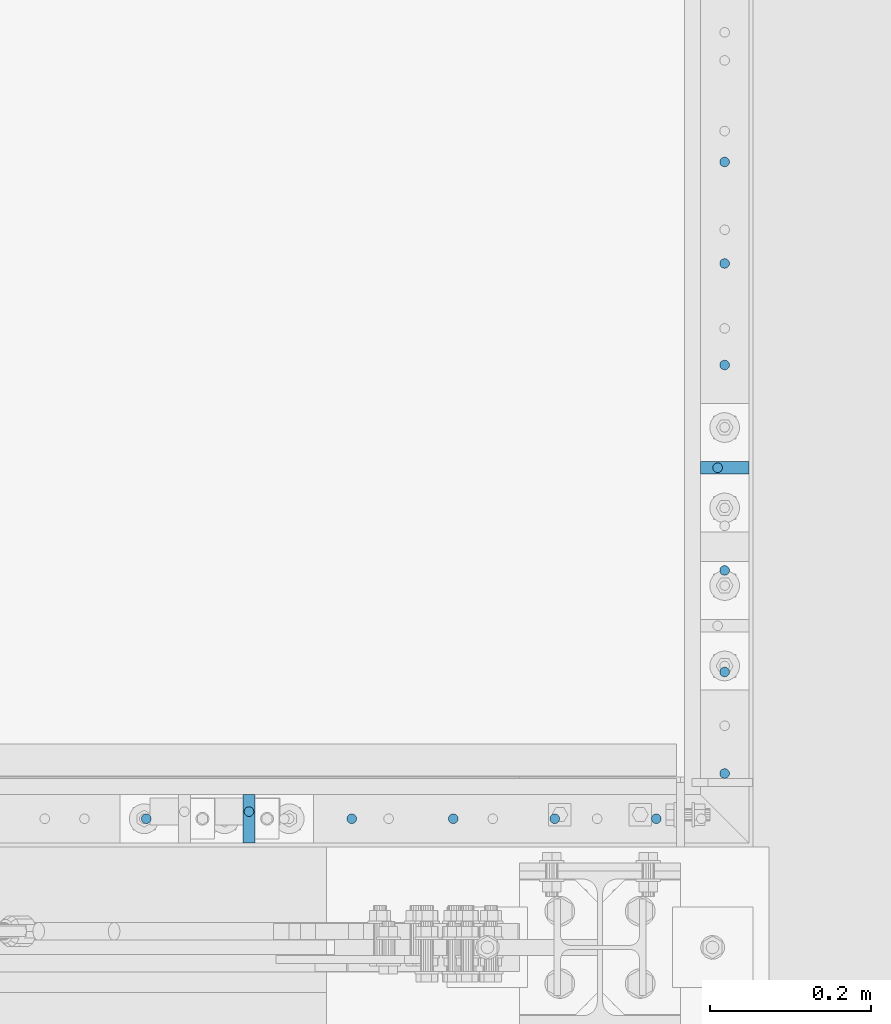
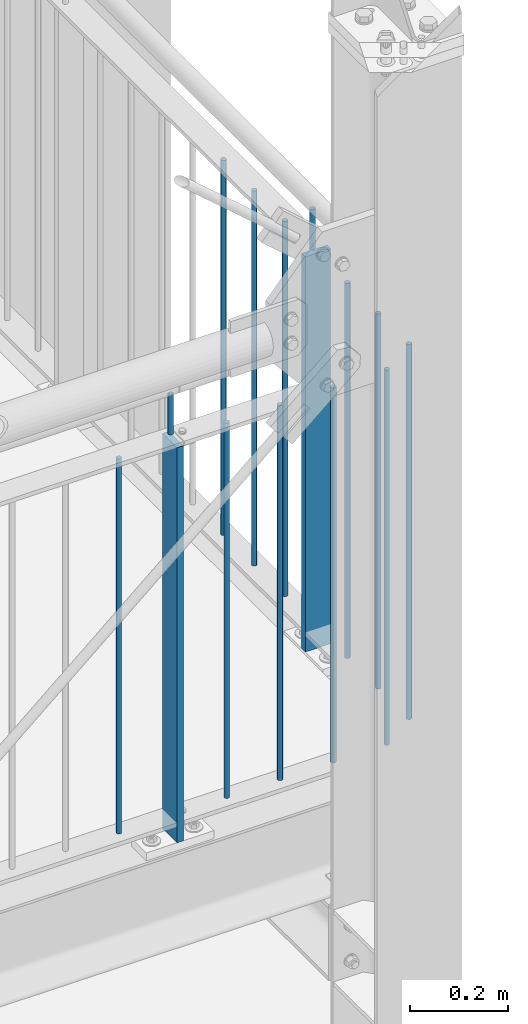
# One storey, part 88 of 831: 15 columns.
"""IFC2X3 building model written with IfcOpenShell, lengths in millimetres."""

from ifc_helpers import new_model, entity, si_unit, converted_unit, frame, origin, origin_with_axes, origin_2d, place, context, project, spatial, rectangle, circle, extrude, clip, halfspace, material, element, save


model = new_model("IFC2X3")

# Units and contexts
model_context = context("Model", 3, precision=1e-09, world=origin_with_axes())
ifc_project = project(units=[si_unit("LENGTHUNIT", "METRE", prefix="MILLI"), si_unit("AREAUNIT", "SQUARE_METRE"), si_unit("VOLUMEUNIT", "CUBIC_METRE"), converted_unit("PLANEANGLEUNIT", "DEGREE", entity("IfcPlaneAngleMeasure", 0.01745329), si_unit("PLANEANGLEUNIT", "RADIAN"), dimensions=[0, 0, 0, 0, 0, 0, 0])], contexts=[model_context])

# Site, building, storey
site_placement = place(None, origin_with_axes())
site = spatial("IfcSite", under=ifc_project, at=site_placement, Name="Site", CompositionType="ELEMENT")
building_placement = place(site_placement, origin_with_axes())
building = spatial("IfcBuilding", under=site, at=building_placement, Name="Struktur 1", CompositionType="ELEMENT")
storey_placement = place(building_placement, origin_with_axes())
storey = spatial("IfcBuildingStorey", under=building, at=storey_placement, Name="Default Storey", CompositionType="ELEMENT", Elevation=0.0)

# Columns
ifc_material = material(Name="S235JR")
column_1_placement = place(None, frame((9021.713402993, 4963.274795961, 3220.775923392), z_axis=(0.0, 0.0, 1.0), x_axis=(0.0, -1.0, 0.0)))
element("IfcColumn", 1, at=column_1_placement, inside=storey, material=ifc_material, Name="Railing_Post_Landing#6", ObjectType="Railing_Post_Landing#6", context=model_context, shape_type="Clipping", body=[
    clip(clip(extrude(rectangle(XDim=15.0, YDim=60.0, at=origin_2d()), origin(), (0.0, 0.0, -1.0), 1070.646584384), halfspace(frame((4963.274795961, -9021.713402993, -1019.722292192), z_axis=(0.0, 0.0, 1.0), x_axis=(0.0, 1.0, 0.0)), True)), halfspace(frame((4963.274795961, -9021.713402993, -30.924292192), z_axis=(0.0, 0.0, -1.0), x_axis=(0.0, -1.0, 0.0)), True)),
])
column_2_placement = place(None, frame((8430.174109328, 4526.736971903, 3220.775923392), z_axis=(0.0, 0.0, 1.0), x_axis=(-1.0, 0.0, 0.0)))
element("IfcColumn", 2, at=column_2_placement, inside=storey, material=ifc_material, Name="Railing_Post_Landing#7", ObjectType="Railing_Post_Landing#7", context=model_context, shape_type="Clipping", body=[
    clip(clip(extrude(rectangle(XDim=15.0, YDim=60.0, at=origin_2d()), origin(), (0.0, 0.0, -1.0), 1070.646584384), halfspace(frame((8430.174109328, 4526.736971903, -1019.722292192), z_axis=(0.0, 0.0, 1.0), x_axis=(-1.0, 0.0, 0.0)), True)), halfspace(frame((8430.174109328, 4526.736971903, -30.924292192), z_axis=(0.0, 0.0, -1.0), x_axis=(1.0, 0.0, 0.0)), True)),
])
column_3_placement = place(None, frame((9021.713402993, 5343.553835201, 3203.337912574), z_axis=(0.0, 0.0, 1.0), x_axis=(0.0, -1.0, 0.0)))
element("IfcColumn", 3, at=column_3_placement, inside=storey, material=ifc_material, Name="Railing_Picket_Landing#39", ObjectType="Railing_Picket_Landing#39", context=model_context, shape_type="Clipping", body=[
    clip(clip(extrude(circle(Radius=6.0, at=origin_2d()), origin(), (0.0, 0.0, -1.0), 965.770562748), halfspace(frame((5343.553835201, -9021.713402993, -13.486281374), z_axis=(0.0, 0.0, -1.0), x_axis=(0.0, -1.0, 0.0)), True)), halfspace(frame((5343.553835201, -9021.713402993, -952.284281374), z_axis=(0.0, 0.0, 1.0), x_axis=(0.0, 1.0, 0.0)), True)),
])
column_4_placement = place(None, frame((9021.713402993, 5217.294315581, 3203.337912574), z_axis=(0.0, 0.0, 1.0), x_axis=(0.0, -1.0, 0.0)))
element("IfcColumn", 4, at=column_4_placement, inside=storey, material=ifc_material, Name="Railing_Picket_Landing#40", ObjectType="Railing_Picket_Landing#40", context=model_context, shape_type="Clipping", body=[
    clip(clip(extrude(circle(Radius=6.0, at=origin_2d()), origin(), (0.0, 0.0, -1.0), 965.770562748), halfspace(frame((5217.294315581, -9021.713402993, -13.486281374), z_axis=(0.0, 0.0, -1.0), x_axis=(0.0, -1.0, 0.0)), True)), halfspace(frame((5217.294315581, -9021.713402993, -952.284281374), z_axis=(0.0, 0.0, 1.0), x_axis=(0.0, 1.0, 0.0)), True)),
])
column_5_placement = place(None, frame((9021.713402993, 5091.034795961, 3203.337912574), z_axis=(0.0, 0.0, 1.0), x_axis=(0.0, -1.0, 0.0)))
element("IfcColumn", 5, at=column_5_placement, inside=storey, material=ifc_material, Name="Railing_Picket_Landing#41", ObjectType="Railing_Picket_Landing#41", context=model_context, shape_type="Clipping", body=[
    clip(clip(extrude(circle(Radius=6.0, at=origin_2d()), origin(), (0.0, 0.0, -1.0), 965.770562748), halfspace(frame((5091.034795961, -9021.713402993, -13.486281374), z_axis=(0.0, 0.0, -1.0), x_axis=(0.0, -1.0, 0.0)), True)), halfspace(frame((5091.034795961, -9021.713402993, -952.284281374), z_axis=(0.0, 0.0, 1.0), x_axis=(0.0, 1.0, 0.0)), True)),
])
column_6_placement = place(None, frame((9021.713402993, 4835.514795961, 3203.337912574), z_axis=(0.0, 0.0, 1.0), x_axis=(0.0, -1.0, 0.0)))
element("IfcColumn", 6, at=column_6_placement, inside=storey, material=ifc_material, Name="Railing_Picket_Landing#42", ObjectType="Railing_Picket_Landing#42", context=model_context, shape_type="Clipping", body=[
    clip(clip(extrude(circle(Radius=6.0, at=origin_2d()), origin(), (0.0, 0.0, -1.0), 965.770562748), halfspace(frame((4835.514795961, -9021.713402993, -13.486281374), z_axis=(0.0, 0.0, -1.0), x_axis=(0.0, -1.0, 0.0)), True)), halfspace(frame((4835.514795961, -9021.713402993, -952.284281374), z_axis=(0.0, 0.0, 1.0), x_axis=(0.0, 1.0, 0.0)), True)),
])
column_7_placement = place(None, frame((9021.713402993, 4709.25527634, 3203.337912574), z_axis=(0.0, 0.0, 1.0), x_axis=(0.0, -1.0, 0.0)))
element("IfcColumn", 7, at=column_7_placement, inside=storey, material=ifc_material, Name="Railing_Picket_Landing#43", ObjectType="Railing_Picket_Landing#43", context=model_context, shape_type="Clipping", body=[
    clip(clip(extrude(circle(Radius=6.0, at=origin_2d()), origin(), (0.0, 0.0, -1.0), 965.770562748), halfspace(frame((4709.25527634, -9021.713402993, -13.486281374), z_axis=(0.0, 0.0, -1.0), x_axis=(0.0, -1.0, 0.0)), True)), halfspace(frame((4709.25527634, -9021.713402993, -952.284281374), z_axis=(0.0, 0.0, 1.0), x_axis=(0.0, 1.0, 0.0)), True)),
])
column_8_placement = place(None, frame((9021.713402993, 4582.99575672, 3203.337912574), z_axis=(0.0, 0.0, 1.0), x_axis=(0.0, -1.0, 0.0)))
element("IfcColumn", 8, at=column_8_placement, inside=storey, material=ifc_material, Name="Railing_Picket_Landing#44", ObjectType="Railing_Picket_Landing#44", context=model_context, shape_type="Clipping", body=[
    clip(clip(extrude(circle(Radius=6.0, at=origin_2d()), origin(), (0.0, 0.0, -1.0), 965.770562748), halfspace(frame((4582.99575672, -9021.713402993, -13.486281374), z_axis=(0.0, 0.0, -1.0), x_axis=(0.0, -1.0, 0.0)), True)), halfspace(frame((4582.99575672, -9021.713402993, -952.284281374), z_axis=(0.0, 0.0, 1.0), x_axis=(0.0, 1.0, 0.0)), True)),
])
column_9_placement = place(None, frame((8936.712668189, 4526.736971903, 3203.337912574), z_axis=(0.0, 0.0, 1.0), x_axis=(-1.0, 0.0, 0.0)))
element("IfcColumn", 9, at=column_9_placement, inside=storey, material=ifc_material, Name="Railing_Picket_Landing#45", ObjectType="Railing_Picket_Landing#45", context=model_context, shape_type="Clipping", body=[
    clip(clip(extrude(circle(Radius=6.0, at=origin_2d()), origin(), (0.0, 0.0, -1.0), 965.770562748), halfspace(frame((8936.712668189, 4526.736971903, -13.486281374), z_axis=(0.0, 0.0, -1.0), x_axis=(1.0, 0.0, 0.0)), True)), halfspace(frame((8936.712668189, 4526.736971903, -952.284281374), z_axis=(0.0, 0.0, 1.0), x_axis=(-1.0, 0.0, 0.0)), True)),
])
column_10_placement = place(None, frame((8810.453148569, 4526.736971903, 3203.337912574), z_axis=(0.0, 0.0, 1.0), x_axis=(-1.0, 0.0, 0.0)))
element("IfcColumn", 10, at=column_10_placement, inside=storey, material=ifc_material, Name="Railing_Picket_Landing#46", ObjectType="Railing_Picket_Landing#46", context=model_context, shape_type="Clipping", body=[
    clip(clip(extrude(circle(Radius=6.0, at=origin_2d()), origin(), (0.0, 0.0, -1.0), 965.770562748), halfspace(frame((8810.453148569, 4526.736971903, -13.486281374), z_axis=(0.0, 0.0, -1.0), x_axis=(1.0, 0.0, 0.0)), True)), halfspace(frame((8810.453148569, 4526.736971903, -952.284281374), z_axis=(0.0, 0.0, 1.0), x_axis=(-1.0, 0.0, 0.0)), True)),
])
column_11_placement = place(None, frame((8684.193628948, 4526.736971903, 3203.337912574), z_axis=(0.0, 0.0, 1.0), x_axis=(-1.0, 0.0, 0.0)))
element("IfcColumn", 11, at=column_11_placement, inside=storey, material=ifc_material, Name="Railing_Picket_Landing#47", ObjectType="Railing_Picket_Landing#47", context=model_context, shape_type="Clipping", body=[
    clip(clip(extrude(circle(Radius=6.0, at=origin_2d()), origin(), (0.0, 0.0, -1.0), 965.770562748), halfspace(frame((8684.193628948, 4526.736971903, -13.486281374), z_axis=(0.0, 0.0, -1.0), x_axis=(1.0, 0.0, 0.0)), True)), halfspace(frame((8684.193628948, 4526.736971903, -952.284281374), z_axis=(0.0, 0.0, 1.0), x_axis=(-1.0, 0.0, 0.0)), True)),
])
column_12_placement = place(None, frame((8557.934109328, 4526.736971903, 3203.337912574), z_axis=(0.0, 0.0, 1.0), x_axis=(-1.0, 0.0, 0.0)))
element("IfcColumn", 12, at=column_12_placement, inside=storey, material=ifc_material, Name="Railing_Picket_Landing#48", ObjectType="Railing_Picket_Landing#48", context=model_context, shape_type="Clipping", body=[
    clip(clip(extrude(circle(Radius=6.0, at=origin_2d()), origin(), (0.0, 0.0, -1.0), 965.770562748), halfspace(frame((8557.934109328, 4526.736971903, -13.486281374), z_axis=(0.0, 0.0, -1.0), x_axis=(1.0, 0.0, 0.0)), True)), halfspace(frame((8557.934109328, 4526.736971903, -952.284281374), z_axis=(0.0, 0.0, 1.0), x_axis=(-1.0, 0.0, 0.0)), True)),
])
column_13_placement = place(None, frame((8302.414109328, 4526.736971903, 3203.337912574), z_axis=(0.0, 0.0, 1.0), x_axis=(-1.0, 0.0, 0.0)))
element("IfcColumn", 13, at=column_13_placement, inside=storey, material=ifc_material, Name="Railing_Picket_Landing#49", ObjectType="Railing_Picket_Landing#49", context=model_context, shape_type="Clipping", body=[
    clip(clip(extrude(circle(Radius=6.0, at=origin_2d()), origin(), (0.0, 0.0, -1.0), 965.770562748), halfspace(frame((8302.414109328, 4526.736971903, -13.486281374), z_axis=(0.0, 0.0, -1.0), x_axis=(1.0, 0.0, 0.0)), True)), halfspace(frame((8302.414109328, 4526.736971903, -952.284281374), z_axis=(0.0, 0.0, 1.0), x_axis=(-1.0, 0.0, 0.0)), True)),
])
column_14_placement = place(None, frame((9012.913402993, 4963.274795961, 3308.337912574), z_axis=(0.0, 0.0, 1.0), x_axis=(-1.0, 0.0, 0.0)))
element("IfcColumn", 14, at=column_14_placement, inside=storey, material=ifc_material, Name="Bar#6", ObjectType="Bar#6", context=model_context, shape_type="Clipping", body=[
    clip(clip(extrude(circle(Radius=6.0, at=origin_2d()), origin(), (0.0, 0.0, -1.0), 116.970562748), halfspace(frame((9012.913402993, 4963.274795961, -8.486281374), z_axis=(0.0, 0.0, -1.0), x_axis=(1.0, 0.0, 0.0)), True)), halfspace(frame((9012.913402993, 4963.274795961, -108.484281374), z_axis=(0.0, 0.0, 1.0), x_axis=(-1.0, 0.0, 0.0)), True)),
])
column_15_placement = place(None, frame((8430.174109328, 4535.536971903, 3308.337912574), z_axis=(0.0, 0.0, 1.0), x_axis=(0.0, 1.0, 0.0)))
element("IfcColumn", 15, at=column_15_placement, inside=storey, material=ifc_material, Name="Bar#7", ObjectType="Bar#7", context=model_context, shape_type="Clipping", body=[
    clip(clip(extrude(circle(Radius=6.0, at=origin_2d()), origin(), (0.0, 0.0, -1.0), 116.970562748), halfspace(frame((-4535.536971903, 8430.174109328, -8.486281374), z_axis=(0.0, 0.0, -1.0), x_axis=(0.0, 1.0, 0.0)), True)), halfspace(frame((-4535.536971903, 8430.174109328, -108.484281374), z_axis=(0.0, 0.0, 1.0), x_axis=(0.0, -1.0, 0.0)), True)),
])

save(model, "model.ifc")
